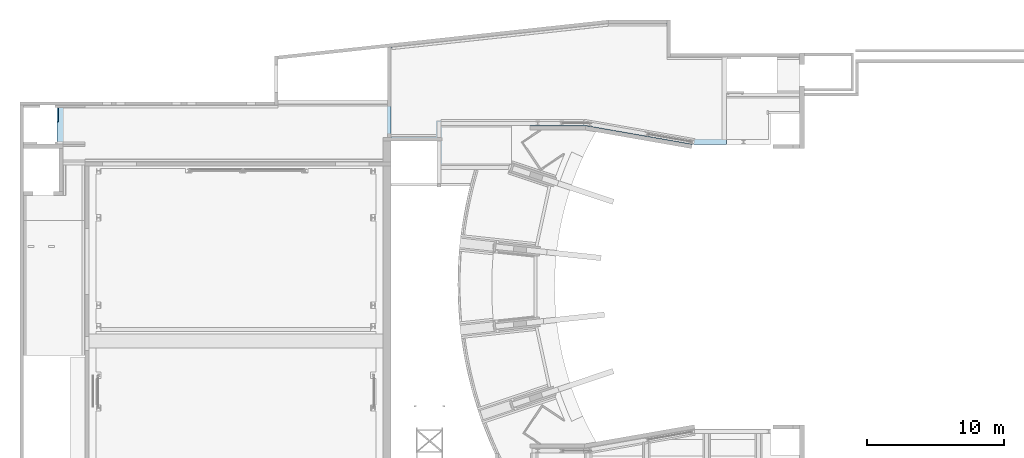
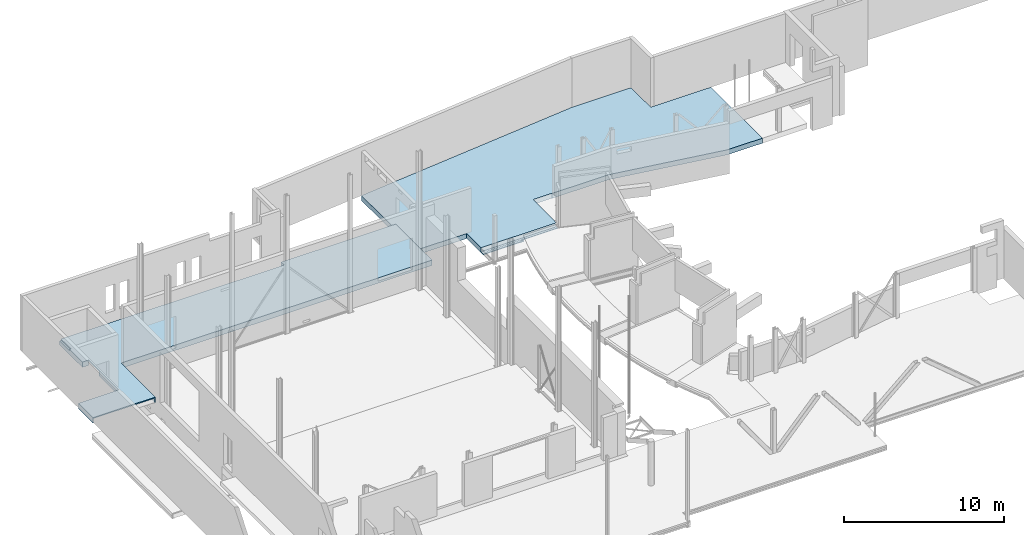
# One storey, part 34 of 37: 2 slabs.
"""IFC2X3 building model written with IfcOpenShell, lengths in millimetres."""

from ifc_helpers import new_model, entity, si_unit, converted_unit, derived_unit, direction, frame, origin, place, context, subcontext, project, spatial, faceted_brep, material, type_object, element, save


model = new_model("IFC2X3")

# Units and contexts
model_context = context("Model", 3, precision=0.01, world=origin(), true_north=direction((6.12303176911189e-17, 1.0)))
body_context = subcontext(model_context, "Body", "Model", "MODEL_VIEW")
ifc_project = project(units=[si_unit("LENGTHUNIT", "METRE", prefix="MILLI"), si_unit("AREAUNIT", "SQUARE_METRE", prefix="MILLI"), si_unit("VOLUMEUNIT", "CUBIC_METRE"), converted_unit("PLANEANGLEUNIT", "DEGREE", entity("IfcRatioMeasure", 0.0174532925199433), si_unit("PLANEANGLEUNIT", "RADIAN"), dimensions=[0, 0, 0, 0, 0, 0, 0]), si_unit("MASSUNIT", "GRAM", prefix="KILO"), derived_unit("MASSDENSITYUNIT", [(si_unit("MASSUNIT", "GRAM", prefix="KILO"), 1), (si_unit("LENGTHUNIT", "METRE"), -3)]), derived_unit("MOMENTOFINERTIAUNIT", [(si_unit("LENGTHUNIT", "METRE"), 4)]), si_unit("TIMEUNIT", "SECOND"), si_unit("FREQUENCYUNIT", "HERTZ"), si_unit("THERMODYNAMICTEMPERATUREUNIT", "DEGREE_CELSIUS"), derived_unit("THERMALTRANSMITTANCEUNIT", [(si_unit("MASSUNIT", "GRAM", prefix="KILO"), 1), (si_unit("THERMODYNAMICTEMPERATUREUNIT", "KELVIN"), -1), (si_unit("TIMEUNIT", "SECOND"), -3)]), derived_unit("VOLUMETRICFLOWRATEUNIT", [(si_unit("LENGTHUNIT", "METRE"), 3), (si_unit("TIMEUNIT", "SECOND"), -1)]), si_unit("ELECTRICCURRENTUNIT", "AMPERE"), si_unit("ELECTRICVOLTAGEUNIT", "VOLT"), si_unit("POWERUNIT", "WATT"), si_unit("FORCEUNIT", "NEWTON", prefix="KILO"), si_unit("ILLUMINANCEUNIT", "LUX"), si_unit("LUMINOUSFLUXUNIT", "LUMEN"), si_unit("LUMINOUSINTENSITYUNIT", "CANDELA"), derived_unit("USERDEFINED", [(si_unit("MASSUNIT", "GRAM", prefix="KILO"), -1), (si_unit("LENGTHUNIT", "METRE"), -2), (si_unit("TIMEUNIT", "SECOND"), 3), (si_unit("LUMINOUSFLUXUNIT", "LUMEN"), 1)]), derived_unit("LINEARVELOCITYUNIT", [(si_unit("LENGTHUNIT", "METRE"), 1), (si_unit("TIMEUNIT", "SECOND"), -1)]), si_unit("PRESSUREUNIT", "PASCAL"), derived_unit("USERDEFINED", [(si_unit("LENGTHUNIT", "METRE"), -2), (si_unit("MASSUNIT", "GRAM", prefix="KILO"), 1), (si_unit("TIMEUNIT", "SECOND"), -2)]), derived_unit("LINEARFORCEUNIT", [(si_unit("MASSUNIT", "GRAM", prefix="KILO"), 1), (si_unit("LENGTHUNIT", "METRE"), 1), (si_unit("TIMEUNIT", "SECOND"), -2), (si_unit("LENGTHUNIT", "METRE"), -1)]), derived_unit("PLANARFORCEUNIT", [(si_unit("MASSUNIT", "GRAM", prefix="KILO"), 1), (si_unit("LENGTHUNIT", "METRE"), 1), (si_unit("TIMEUNIT", "SECOND"), -2), (si_unit("LENGTHUNIT", "METRE"), -2)])], contexts=[model_context])

# Site, building, storey
site_placement = place(None, origin())
site = spatial("IfcSite", under=ifc_project, at=site_placement, Name="Theater aan de Parade", CompositionType="ELEMENT")
building_placement = place(site_placement, origin())
building = spatial("IfcBuilding", under=site, at=building_placement, Name="Theater aan de Parade", CompositionType="ELEMENT")
storey_placement = place(building_placement, frame((0.0, 0.0, 5020.0)))
storey = spatial("IfcBuildingStorey", under=building, at=storey_placement, Name="01 eerste verdieping", CompositionType="ELEMENT", Elevation=5020.0)

# Slabs
ifc_material = material(Name="00_PBT_MAT_beton t.p.g._C30/37")
slab_type_1 = type_object("IfcSlabType", Name="Floor:28_PBT_FL_druklaag_d=60 (=380)_C30/37", PredefinedType="FLOOR")
slab_1_placement = place(storey_placement, origin())
element("IfcSlab", 1, at=slab_1_placement, inside=storey, type_object=slab_type_1, material=ifc_material, Name="Floor:28_PBT_FL_druklaag_d=60 (=380)_C30/37", ObjectType="Floor:28_PBT_FL_druklaag_d=60 (=380)_C30/37", PredefinedType="FLOOR", context=body_context, shape_type="Brep", body=[
    faceted_brep([(46258.3063242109, 41486.1710981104, -140.0), (46258.3063242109, 44225.0, -140.0), (46258.3063242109, 44225.0, -80.0), (46258.3063242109, 41486.1710981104, -80.0), (46258.3063242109, 41160.0, -460.0), (46258.3063242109, 41330.0, -460.0), (46258.3063242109, 41330.0, -380.0), (46258.3063242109, 41160.0, -380.0), (46206.0520128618, 41330.0, -140.0), (41133.8581275, 41330.0, -140.0), (41133.8581275, 44225.0, -140.0), (40793.8581275, 44545.0, -140.0), (40793.8581275, 43450.0, -140.0), (37453.8581740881, 43450.0, -140.0), (37453.8581740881, 49933.0161565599, -140.0), (53374.3979784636, 51660.519112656, -140.0), (57637.0315633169, 51660.519112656, -140.0), (57637.0315633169, 49261.9979908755, -140.0), (57637.0315633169, 49221.564484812, -140.0), (61663.8822563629, 49221.564484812, -140.0), (61663.8822563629, 43205.0, -140.0), (59521.5848518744, 43205.0, -140.0), (59521.5848518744, 43200.9267024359, -140.0), (51574.0378713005, 44591.7474240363, -140.0), (51544.7332149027, 44424.2922446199, -140.0), (50740.6888984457, 44565.0, -140.0), (40793.8581275, 44565.0, -140.0), (57614.7658254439, 51710.5191126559, -460.0), (57637.0315633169, 51710.5191126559, -460.0), (57614.7658254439, 51684.969012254, -460.0), (57637.0315633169, 51660.519112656, -460.0), (53374.3979784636, 51660.519112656, -460.0), (53374.7658254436, 51684.969012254, -460.0), (53371.3947545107, 51684.7866536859, -460.0), (48658.4652116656, 51173.3969761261, -460.0), (43945.5356688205, 50662.0072985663, -460.0), (37524.412511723, 49965.265267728, -460.0), (37453.8581740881, 49933.0161565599, -460.0), (37453.8581300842, 49983.3096390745, -460.0), (37203.8581300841, 49956.1826858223, -460.0), (37203.8581300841, 49571.9210622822, -460.0), (37203.8581300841, 48471.9210622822, -460.0), (37203.8581300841, 45646.8945249, -460.0), (37453.8581740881, 43450.0, -460.0), (37203.8581300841, 43671.8945249, -460.0), (37203.8581300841, 43400.0, -460.0), (37453.858130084, 43425.5501004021, -460.0), (40793.8581275, 43425.5501004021, -460.0), (40793.8581275, 43450.0, -460.0), (41133.8581275, 44225.0, -460.0), (40793.8581275, 44545.0, -460.0), (40793.8581275, 44565.0, -460.0), (46258.3063242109, 44225.0, -460.0), (50740.6888984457, 44565.0, -460.0), (47610.9866342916, 44225.0, -460.0), (47610.9866342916, 44210.0, -460.0), (51696.0520432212, 44210.0, -460.0), (51544.7332149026, 44424.2922446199, -460.0), (51574.0378713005, 44591.7474240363, -460.0), (59521.5848518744, 43200.9267024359, -460.0), (59467.48061465, 42850.0, -460.0), (59521.5848518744, 43185.0, -460.0), (61663.8822563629, 43205.0, -460.0), (59521.5848518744, 43205.0, -460.0), (61983.8822563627, 43185.0, -460.0), (61983.8822563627, 46366.8631171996, -460.0), (61663.8822563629, 49221.564484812, -460.0), (61983.8822563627, 49261.9979908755, -460.0), (61663.8822563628, 49236.4478904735, -460.0), (57637.0315633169, 49236.4478904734, -460.0), (57637.0315633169, 49221.564484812, -460.0), (61663.8822563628, 49261.9979908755, -460.0), (59521.5848518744, 42885.0, -460.0), (61983.8822563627, 42850.0, -460.0), (61983.8822563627, 42885.0, -460.0), (40793.8581275, 43400.0, -460.0), (40813.8581275, 43100.0, -460.0), (41133.8581275, 41330.0, -460.0), (41113.8581275, 41310.0, -460.0), (46225.0, 41310.0, -460.0), (46225.0, 41160.0, -460.0), (40813.8581275, 41010.0, -460.0), (41113.8581275, 41010.0, -460.0), (37453.858130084, 43400.0, -460.0), (37203.8581300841, 43100.0, -460.0), (37521.6563044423, 49990.6662707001, -460.0), (53371.6932212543, 51710.519112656, -460.0), (53368.63854723, 51710.1876566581, -460.0), (53374.7658254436, 51710.519112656, -460.0), (57637.0315633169, 49261.9979908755, -80.0), (57637.0315633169, 51710.5191126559, -80.0), (53371.6932212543, 51710.519112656, -80.0), (37453.8581300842, 49983.3096390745, -80.0), (37203.8581300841, 49956.1826858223, -80.0), (37203.8581300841, 46100.0, -80.0), (37203.8581300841, 45780.0, -80.0), (37203.8581300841, 43350.0, -80.0), (37203.8581300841, 43100.0, -80.0), (37453.8581300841, 43100.0, -80.0), (40813.8581275, 43100.0, -80.0), (40813.8581275, 41310.0, -80.0), (46199.3600820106, 41310.0, -80.0), (47610.9866342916, 44225.0, -80.0), (47610.9866342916, 44210.0, -80.0), (51696.0520432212, 44210.0, -80.0), (59467.48061465, 42850.0, -80.0), (61983.8822563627, 42850.0, -80.0), (61983.8822563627, 46626.8631171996, -80.0), (61983.8822563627, 49261.9979908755, -80.0), (57887.0315633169, 49261.9979908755, -80.0), (37203.8581300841, 43100.0, -400.0), (53368.63854723, 51710.1876566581, -285.0), (37521.6563044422, 49990.6662707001, -285.0), (61663.8822563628, 49261.9979908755, -285.0), (57637.0315633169, 49261.9979908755, -285.0), (61983.8822563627, 43039.2499999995, -216.0), (61983.8822563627, 43039.2499999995, -424.0), (61983.8822563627, 43041.3218552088, -429.001900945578), (61983.8822563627, 43043.2040584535, -433.545941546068), (61983.8822563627, 43045.1810876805, -438.318912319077), (61983.8822563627, 43047.1581169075, -443.091883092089), (61983.8822563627, 43051.9310876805, -445.068912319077), (61983.8822563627, 43056.7040584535, -447.045941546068), (61983.8822563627, 43061.248099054, -448.928144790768), (61983.8822563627, 43066.2499999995, -451.0), (61983.8822563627, 43185.0, -451.0), (61983.8822563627, 42885.0, -451.0), (61983.8822563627, 43003.7499999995, -451.0), (61983.8822563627, 43008.751900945, -448.92814479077), (61983.8822563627, 43013.2959415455, -447.045941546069), (61983.8822563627, 43018.0689123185, -445.068912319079), (61983.8822563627, 43022.8418830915, -443.091883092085), (61983.8822563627, 43024.8189123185, -438.318912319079), (61983.8822563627, 43026.7959415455, -433.54594154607), (61983.8822563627, 43028.6781447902, -429.001900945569), (61983.8822563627, 43030.7499999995, -424.0), (61983.8822563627, 43030.7499999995, -216.0), (61983.8822563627, 43028.6781447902, -210.998099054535), (61983.8822563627, 43026.7959415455, -206.454058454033), (61983.8822563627, 43024.8189123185, -201.681087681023), (61983.8822563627, 43022.8418830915, -196.908116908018), (61983.8822563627, 43018.0689123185, -194.931087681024), (61983.8822563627, 43013.2959415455, -192.954058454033), (61983.8822563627, 43008.751900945, -191.07185520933), (61983.8822563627, 43003.7499999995, -189.0), (61983.8822563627, 42885.0, -189.0), (61983.8822563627, 42885.0, -175.0), (61983.8822563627, 43185.0, -175.0), (61983.8822563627, 43185.0, -189.0), (61983.8822563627, 43066.2499999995, -189.0), (61983.8822563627, 43061.2480990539, -191.071855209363), (61983.8822563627, 43056.7040584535, -192.954058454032), (61983.8822563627, 43051.9310876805, -194.931087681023), (61983.8822563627, 43047.1581169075, -196.90811690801), (61983.8822563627, 43045.1810876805, -201.681087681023), (61983.8822563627, 43043.2040584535, -206.454058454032), (61983.8822563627, 43041.3218552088, -210.998099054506), (57614.7658254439, 51710.5191126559, -285.0), (53374.7658254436, 51710.519112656, -285.0), (40813.8581275, 41310.0, -380.0), (40813.8581275, 41010.0, -380.0), (46225.0, 41160.0, -380.0), (43781.188250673, 41154.4999944, -419.0), (43772.9637130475, 41127.4999944, -446.0), (43774.5562211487, 41132.7300084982, -443.517253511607), (43776.14872925, 41137.9600225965, -441.034507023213), (43777.7412373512, 41143.1900366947, -438.551760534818), (43779.3337454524, 41148.4200507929, -436.069014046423), (43780.1587978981, 41151.1249622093, -428.475165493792), (43780.6735242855, 41152.8124783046, -423.737582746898), (43781.188250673, 41154.4999944, -380.0), (43759.2521572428, 41082.2781185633, -380.0), (43755.1714070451, 41068.768552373, -446.0), (43737.50208252, 41010.0, -380.0), (43737.5020825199, 41010.0, -446.0), (43638.3466670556, 41010.0, -380.0), (43638.3466670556, 41010.0, -230.0), (43575.736911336, 41010.0, -230.0), (43572.1891613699, 41010.0, -231.6150727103), (43569.6714422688, 41010.0, -232.761235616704), (43566.6387077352, 41010.0, -234.141853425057), (43563.6059732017, 41010.0, -235.522471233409), (43561.8461073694, 41010.0, -240.261235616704), (43560.7549700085, 41010.0, -243.199324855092), (43560.0862415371, 41010.0, -245.0), (43560.0862415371, 41010.0, -365.0), (43561.808661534, 41010.0, -368.383699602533), (43563.0952304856, 41010.0, -370.911168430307), (43564.5997249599, 41010.0, -373.866752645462), (43575.7369483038, 41010.0, -380.0), (41113.8581275, 41010.0, -446.0), (59521.5848518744, 43185.0, -451.0), (59521.5848518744, 43066.2499999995, -451.0), (59521.5848518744, 43061.4770292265, -449.022970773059), (59521.5848518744, 43056.7040584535, -447.045941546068), (59521.5848518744, 43051.9310876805, -445.068912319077), (59521.5848518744, 43047.1581169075, -443.091883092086), (59521.5848518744, 43045.2759136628, -438.547842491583), (59521.5848518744, 43043.3937104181, -434.003801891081), (59521.5848518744, 43041.3218552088, -429.001900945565), (59521.5848518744, 43039.2499999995, -424.0), (59521.5848518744, 43039.2499999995, -216.0), (59521.5848518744, 43041.2270292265, -211.22702922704), (59521.5848518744, 43043.2040584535, -206.454058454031), (59521.5848518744, 43045.1810876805, -201.681087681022), (59521.5848518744, 43047.1581169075, -196.908116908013), (59521.5848518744, 43051.702157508, -195.025913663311), (59521.5848518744, 43056.2461981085, -193.143710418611), (59521.5848518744, 43061.248099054, -191.07185520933), (59521.5848518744, 43066.2499999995, -189.0), (59521.5848518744, 43185.0, -189.0), (59521.5848518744, 43185.0, -175.0), (59521.5848518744, 42885.0, -175.0), (59521.5848518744, 42885.0, -189.0), (59521.5848518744, 43003.7499999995, -189.0), (59521.5848518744, 43008.5229707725, -190.977029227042), (59521.5848518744, 43013.2959415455, -192.954058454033), (59521.5848518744, 43018.0689123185, -194.931087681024), (59521.5848518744, 43022.8418830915, -196.908116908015), (59521.5848518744, 43024.7240863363, -201.452157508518), (59521.5848518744, 43026.6062895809, -205.996198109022), (59521.5848518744, 43028.6781447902, -210.998099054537), (59521.5848518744, 43030.7499999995, -216.0), (59521.5848518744, 43030.7499999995, -424.0), (59521.5848518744, 43028.7729707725, -428.77297077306), (59521.5848518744, 43026.7959415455, -433.545941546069), (59521.5848518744, 43024.8189123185, -438.318912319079), (59521.5848518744, 43022.8418830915, -443.091883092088), (59521.5848518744, 43018.297842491, -444.97408633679), (59521.5848518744, 43013.7538018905, -446.856289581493), (59521.5848518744, 43008.751900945, -448.928144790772), (59521.5848518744, 43003.7499999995, -451.0), (59521.5848518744, 42885.0, -451.0), (43578.2937646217, 41018.5808795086, -380.0), (43580.8528536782, 41027.1598726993, -380.0), (41113.8581275, 41154.4999944, -380.0), (41113.8581275, 41165.4999944, -380.0), (46225.0, 41165.4999944, -380.0), (46206.0520128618, 41330.0, -380.0), (46199.3600820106, 41310.0, -380.0), (43566.4794003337, 41031.4498422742, -365.0), (43566.4794003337, 41031.4498422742, -245.0), (43568.0464762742, 41030.9821252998, -241.603238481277), (43569.1841792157, 41030.642561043, -239.137177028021), (43570.5365686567, 41030.2389204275, -236.205765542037), (43571.8889580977, 41029.8352798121, -233.274354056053), (43576.370905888, 41028.4975762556, -231.637177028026), (43580.8528536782, 41027.1598726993, -230.0), (43577.5979741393, 41028.1313396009, -378.364614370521), (43575.2349195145, 41028.8366281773, -377.177318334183), (43572.4259524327, 41029.6750059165, -375.765977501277), (43569.6169853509, 41030.5133836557, -374.354636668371), (43568.0481928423, 41030.9816129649, -369.677318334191), (43567.0850369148, 41031.2690810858, -366.805691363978), (43564.435660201, 41021.3380358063, -239.795622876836), (43564.0858525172, 41022.6157453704, -242.374601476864), (43578.2935753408, 41018.5803090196, -230.0), (43567.6557910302, 41020.1290444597, -234.423778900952), (43565.606161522, 41020.2719929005, -236.926532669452), (43570.2537176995, 41019.7667223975, -232.33909418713), (43563.2807856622, 41020.7255249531, -245.0), (43563.2807856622, 41020.7255249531, -365.0), (46199.3600820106, 41310.0, -184.0), (46199.3600820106, 41310.0, -165.0), (46225.0, 41310.0, -446.0), (41113.8581275, 41310.0, -446.0), (41113.8581275, 41165.4999944, -419.0), (46225.0, 41165.4999944, -419.0), (41113.8581275, 41154.4999944, -419.0), (41113.8581275, 41192.4999944, -446.0), (41113.8581275, 41187.727023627, -444.02297077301), (41113.8581275, 41182.954052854, -442.045941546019), (41113.8581275, 41178.1810820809, -440.068912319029), (41113.8581275, 41173.4081113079, -438.091883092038), (41113.8581275, 41171.4502892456, -433.365282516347), (41113.8581275, 41169.4924671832, -428.638681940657), (41113.8581275, 41167.4962307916, -423.819340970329), (41113.8581275, 41152.522965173, -423.772970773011), (41113.8581275, 41150.545935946, -428.54594154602), (41113.8581275, 41148.568906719, -433.31891231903), (41113.8581275, 41146.591877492, -438.091883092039), (41113.8581275, 41141.6633500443, -440.133346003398), (41113.8581275, 41136.7348225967, -442.174808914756), (41113.8581275, 41132.1174084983, -444.08740445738), (41113.8581275, 41127.4999944, -446.0), (46225.0, 41192.4999944, -446.0), (46225.0, 41167.4962307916, -423.819340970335), (46225.0, 41169.454052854, -428.545941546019), (46225.0, 41171.431082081, -433.318912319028), (46225.0, 41173.408111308, -438.091883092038), (46225.0, 41178.181082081, -440.068912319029), (46225.0, 41182.954052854, -442.045941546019), (46225.0, 41187.6806534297, -444.003763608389), (43565.7607443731, 41020.5356255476, -373.186400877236), (43564.0514455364, 41020.1075935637, -370.158902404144), (43567.7131487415, 41020.2096466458, -375.608250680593), (43570.9209068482, 41010.0011410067, -378.411168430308), (43563.0152828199, 41019.03187088, -367.612601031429), (43570.3039435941, 41019.7090763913, -377.701717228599), (43566.1042194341, 41010.0, -376.822336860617), (37453.858130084, 43400.0, -285.0), (40793.8581275, 43400.0, -285.0), (37453.858130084, 43423.0301338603, -456.358117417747), (37453.858130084, 43421.4461246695, -454.068890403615), (37453.858130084, 43420.7230623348, -450.534445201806), (37453.858130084, 43420.0, -447.0), (37453.858130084, 43420.0, -294.0), (37453.858130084, 43417.3639610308, -287.636038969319), (37453.858130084, 43411.0, -285.0), (40793.8581275, 43411.0, -285.0), (40793.8581275, 43417.3639610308, -287.636038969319), (40793.8581275, 43420.0, -294.0), (40793.8581275, 43420.0, -447.0), (40793.8581275, 43420.7230623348, -450.534445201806), (40793.8581275, 43421.4461246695, -454.068890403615), (40793.8581275, 43423.4981125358, -457.034445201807), (53369.8251680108, 51699.25184708, -285.0), (37522.8429252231, 49979.7304611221, -285.0), (57614.7658254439, 51699.519112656, -285.0), (53374.7658254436, 51699.519112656, -285.0), (61663.8822563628, 49250.9979908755, -285.0), (57637.0315633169, 49250.9979908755, -285.0), (53371.1057459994, 51687.4501348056, -456.128114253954), (53370.9520397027, 51688.8666806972, -454.068890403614), (53370.8740396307, 51689.5855236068, -450.534445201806), (53370.7960395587, 51690.3043665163, -447.0), (53370.7960395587, 51690.3043665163, -294.0), (53370.5116778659, 51692.9250228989, -287.636038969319), (37523.5294350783, 49973.403636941, -287.636038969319), (37523.813796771, 49970.7829805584, -294.0), (37523.813796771, 49970.7829805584, -447.0), (37523.9155956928, 49969.8448092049, -451.612851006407), (37523.969796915, 49969.3452947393, -454.068890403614), (37524.191154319, 49967.3052812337, -457.034445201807), (46949.3546233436, 50993.5278020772, -447.0), (42236.8953867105, 50482.1891564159, -447.0), (49308.2424635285, 51249.0120272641, -451.089764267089), (41553.1332438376, 50405.1854776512, -456.631709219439), (46301.9362062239, 50919.6578688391, -457.798469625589), (44593.1033857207, 50737.4688789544, -450.702915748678), (46301.727486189, 50921.5814187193, -454.558801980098), (42881.3460842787, 50550.8200363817, -453.690198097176), (57614.7658254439, 51686.9540802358, -457.131158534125), (57614.7658254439, 51689.0729879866, -454.068890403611), (57614.7658254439, 51689.7960503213, -450.534445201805), (57614.7658254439, 51690.519112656, -447.0), (57614.7658254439, 51690.519112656, -294.0), (57614.7658254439, 51693.1551516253, -287.636038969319), (53374.7658254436, 51693.1551516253, -287.636038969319), (53374.7658254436, 51690.519112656, -294.0), (53374.7658254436, 51690.519112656, -447.0), (53374.7658254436, 51689.7960503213, -450.534445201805), (53374.7658254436, 51689.0729879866, -454.068890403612), (53374.7658254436, 51687.0210001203, -457.034445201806), (57637.0315633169, 49244.6340298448, -287.636038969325), (57637.0315633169, 49241.9979908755, -294.0), (57637.0315633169, 49241.9979908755, -447.0), (57637.031563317, 49241.2752050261, -450.53379766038), (57637.0315633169, 49240.5524191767, -454.067595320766), (57637.0315633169, 49238.5001548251, -457.033797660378), (61663.8822563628, 49238.5380320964, -456.979304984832), (61663.8822563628, 49240.5518662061, -454.068890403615), (61663.8822563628, 49241.2749285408, -450.534445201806), (61663.8822563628, 49241.9979908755, -447.0), (61663.8822563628, 49241.9979908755, -294.0), (61663.8822563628, 49244.6340298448, -287.636038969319)], [[[0, 1, 2, 3]], [[4, 5, 6, 7]], [[0, 8, 9, 10, 1]], [[11, 12, 13, 14, 15, 16, 17, 18, 19, 20, 21, 22, 23, 24, 25, 26]], [[27, 28, 29]], [[29, 28, 30]], [[30, 31, 29]], [[31, 32, 29]], [[33, 32, 31]], [[31, 34, 33]], [[31, 35, 34]], [[31, 36, 35]], [[37, 36, 31]], [[38, 36, 37]], [[39, 38, 37]], [[37, 40, 39]], [[41, 40, 37]], [[41, 37, 42]], [[37, 43, 42]], [[44, 42, 43]], [[45, 44, 43]], [[45, 43, 46]], [[46, 43, 47]], [[48, 47, 43]], [[48, 49, 47]], [[50, 49, 48]], [[49, 50, 51]], [[52, 49, 51]], [[51, 53, 52]], [[54, 52, 53]], [[53, 55, 54]], [[56, 55, 53]], [[56, 53, 57]], [[58, 56, 57]], [[59, 56, 58]], [[59, 60, 56]], [[61, 60, 59]], [[62, 61, 59]], [[62, 59, 63]], [[62, 64, 61]], [[65, 64, 62]], [[66, 65, 62]], [[66, 67, 65]], [[67, 66, 68]], [[68, 66, 69]], [[66, 70, 69]], [[71, 67, 68]], [[60, 61, 72]], [[72, 73, 60]], [[74, 73, 72]], [[75, 47, 49]], [[49, 76, 75]], [[49, 77, 76]], [[77, 78, 76]], [[77, 79, 78]], [[79, 77, 5]], [[4, 79, 5]], [[79, 4, 80]], [[76, 78, 81]], [[78, 82, 81]], [[75, 76, 83]], [[83, 76, 84]], [[83, 84, 45]], [[45, 46, 83]], [[85, 36, 38]], [[33, 86, 32]], [[33, 87, 86]], [[86, 88, 32]], [[89, 90, 91, 92, 93, 94, 95, 96, 97, 98, 99, 100, 101, 3, 2, 102, 103, 104, 105, 106, 107, 108, 109]], [[45, 84, 110, 97, 96, 95, 94, 93, 39, 40, 41, 42, 44]], [[85, 38, 39, 93, 92, 91, 86, 87, 111, 112]], [[28, 90, 89, 17, 16, 30]], [[113, 114, 17, 89, 109, 108, 67, 71]], [[115, 116, 117, 118, 119, 120, 121, 122, 123, 124, 125, 64, 65, 67, 108, 107, 106, 73, 74, 126, 127, 128, 129, 130, 131, 132, 133, 134, 135, 136, 137, 138, 139, 140, 141, 142, 143, 144, 145, 146, 147, 148, 149, 150, 151, 152, 153, 154, 155, 156]], [[60, 73, 106, 105]], [[56, 60, 105, 104]], [[52, 54, 102, 2, 1, 10, 49]], [[55, 56, 104, 103]], [[54, 55, 103, 102]], [[88, 86, 91, 90, 28, 27, 157, 158]], [[159, 100, 99, 76, 81, 160]], [[110, 84, 76, 99, 98, 97]], [[80, 4, 7, 161]], [[162, 163, 164, 165, 166, 167, 168, 169]], [[162, 170, 171]], [[172, 163, 162]], [[173, 174, 172]], [[172, 171, 173]], [[162, 171, 172]], [[174, 173, 175, 176, 177, 178, 179, 180, 181, 182, 183, 184, 185, 186, 187, 188, 189, 160, 81, 82, 190]], [[61, 191, 192, 193, 194, 195, 196, 197, 198, 199, 200, 201, 202, 203, 204, 205, 206, 207, 208, 209, 210, 211, 212, 213, 214, 215, 216, 217, 218, 219, 220, 221, 222, 223, 224, 225, 226, 227, 228, 229, 230, 231, 232, 72]], [[148, 147, 211, 210]], [[64, 125, 191, 61]], [[149, 148, 210, 209]], [[145, 144, 214, 213]], [[207, 206, 205, 153, 152, 151, 150, 149, 209, 208]], [[153, 205, 204, 203, 202, 201, 115, 156, 155, 154]], [[116, 115, 201, 200]], [[198, 197, 196, 120, 119, 118, 117, 116, 200, 199]], [[120, 196, 195, 194, 193, 192, 124, 123, 122, 121]], [[229, 228, 227, 131, 130, 129, 128, 127, 231, 230]], [[131, 227, 226, 225, 224, 223, 135, 134, 133, 132]], [[136, 135, 223, 222]], [[220, 219, 218, 140, 139, 138, 137, 136, 222, 221]], [[140, 218, 217, 216, 215, 214, 144, 143, 142, 141]], [[146, 145, 213, 212]], [[74, 72, 232, 126]], [[146, 212, 211, 147]], [[189, 233, 234, 175, 173, 171, 170, 235, 236, 237, 161, 7, 6, 238, 239, 159, 160]], [[240, 241, 242, 243, 244, 245, 246, 247, 176, 175, 234, 248, 249, 250, 251, 252, 253]], [[242, 254, 243]], [[182, 255, 183]], [[178, 177, 256]], [[181, 257, 258]], [[244, 243, 258]], [[179, 178, 246]], [[255, 242, 241]], [[179, 246, 259]], [[255, 254, 242]], [[246, 178, 256]], [[255, 260, 183]], [[254, 182, 258]], [[244, 258, 257]], [[247, 246, 256]], [[184, 183, 260]], [[180, 179, 259]], [[181, 180, 257]], [[245, 257, 259]], [[244, 257, 245]], [[181, 258, 182]], [[243, 254, 258]], [[180, 259, 257]], [[245, 259, 246]], [[182, 254, 255]], [[260, 255, 241]], [[176, 247, 256, 177]], [[261, 185, 184, 260]], [[260, 241, 240, 261]], [[262, 263, 101, 100, 159, 239]], [[264, 265, 78, 79]], [[8, 0, 3, 101, 263, 262, 239, 238]], [[237, 236, 266, 267]], [[162, 268, 235, 170]], [[78, 265, 269, 270, 271, 272, 273, 274, 275, 276, 266, 236, 235, 268, 277, 278, 279, 280, 281, 282, 283, 284, 190, 82]], [[285, 264, 79, 80, 161, 237, 267, 286, 287, 288, 289, 290, 291, 292]], [[293, 294, 252]], [[293, 295, 188]], [[249, 248, 296]], [[188, 187, 293]], [[248, 233, 296]], [[252, 297, 253]], [[240, 253, 261]], [[297, 261, 253]], [[186, 294, 187]], [[248, 234, 233]], [[189, 296, 233]], [[249, 296, 298]], [[297, 186, 185]], [[297, 294, 186]], [[251, 250, 295]], [[250, 249, 298]], [[299, 295, 298]], [[251, 295, 293]], [[188, 295, 299]], [[251, 293, 252]], [[294, 293, 187]], [[250, 298, 295]], [[299, 298, 296]], [[252, 294, 297]], [[261, 297, 185]], [[125, 124, 192, 191]], [[127, 126, 232, 231]], [[275, 274, 273, 289, 288, 287, 286, 267, 266, 276]], [[289, 273, 272, 271, 270, 269, 285, 292, 291, 290]], [[285, 269, 265, 264]], [[174, 190, 284, 163, 172]], [[166, 165, 281]], [[268, 169, 277]], [[283, 163, 284]], [[282, 164, 283]], [[278, 277, 168, 279]], [[169, 268, 162]], [[168, 277, 169]], [[163, 283, 164]], [[168, 167, 279]], [[280, 167, 166]], [[165, 282, 281]], [[280, 166, 281]], [[164, 282, 165]], [[167, 280, 279]], [[83, 300, 301, 75]], [[83, 46, 302, 303, 304, 305, 306, 307, 308, 300]], [[13, 43, 37, 14]], [[75, 301, 309, 310, 311, 312, 313, 314, 315, 47]], [[11, 26, 51, 50, 48, 12]], [[306, 305, 312, 311]], [[303, 302, 46, 47, 315, 314]], [[304, 303, 314, 313, 312, 305]], [[300, 308, 309, 301]], [[111, 316, 317, 112]], [[157, 318, 319, 158]], [[113, 320, 321, 114]], [[306, 311, 310, 307]], [[310, 309, 308, 307]], [[87, 33, 322, 323, 324, 325, 326, 327, 316, 111]], [[85, 112, 317, 328, 329, 330, 331, 332, 333, 36]], [[326, 325, 334, 335, 330, 329]], [[334, 325, 336]], [[322, 33, 34]], [[35, 337, 338]], [[35, 338, 34]], [[35, 36, 337]], [[336, 339, 334]], [[322, 340, 323]], [[335, 334, 339]], [[341, 340, 337]], [[322, 338, 340]], [[339, 331, 335]], [[331, 330, 335]], [[340, 339, 336]], [[336, 323, 340]], [[324, 323, 336, 325]], [[341, 332, 331]], [[34, 338, 322]], [[340, 341, 339]], [[338, 337, 340]], [[333, 332, 337, 36]], [[339, 341, 331]], [[341, 337, 332]], [[326, 329, 328, 327]], [[328, 317, 316, 327]], [[27, 29, 342, 343, 344, 345, 346, 347, 318, 157]], [[88, 158, 319, 348, 349, 350, 351, 352, 353, 32]], [[346, 345, 350, 349]], [[352, 343, 342, 29, 32, 353]], [[344, 343, 352, 351, 350, 345]], [[346, 349, 348, 347]], [[348, 319, 318, 347]], [[12, 48, 43, 13]], [[70, 18, 17, 114, 321, 354, 355, 356, 357, 358, 359, 69]], [[18, 70, 66, 19]], [[24, 57, 53, 25]], [[25, 53, 51, 26]], [[23, 58, 57, 24]], [[58, 23, 22, 59]], [[62, 20, 19, 66]], [[71, 68, 360, 361, 362, 363, 364, 365, 320, 113]], [[21, 63, 59, 22]], [[63, 21, 20, 62]], [[15, 14, 37, 31]], [[15, 31, 30, 16]], [[5, 77, 9, 8, 238, 6]], [[9, 77, 49, 10]], [[364, 363, 356, 355]], [[361, 360, 358]], [[359, 68, 69]], [[359, 360, 68]], [[362, 358, 357]], [[357, 356, 363]], [[362, 357, 363]], [[362, 361, 358]], [[359, 358, 360]], [[364, 355, 354, 365]], [[354, 321, 320, 365]], [[188, 299, 296]], [[188, 296, 189]]]),
])
slab_type_2 = type_object("IfcSlabType", Name="Floor:28_PBT_FL_druklaag_d=80 (=400)_C30/37", PredefinedType="FLOOR")
slab_2_placement = place(storey_placement, origin())
element("IfcSlab", 2, at=slab_2_placement, inside=storey, type_object=slab_type_2, material=ifc_material, Name="Floor:28_PBT_FL_druklaag_d=80 (=400)_C30/37", ObjectType="Floor:28_PBT_FL_druklaag_d=80 (=400)_C30/37", PredefinedType="FLOOR", context=body_context, shape_type="Brep", body=[
    faceted_brep([(37453.8581300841, 41573.308327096, -400.0), (36853.8581300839, 41573.308327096, -400.0), (15053.8570025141, 41573.308327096, -400.0), (15053.8570025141, 37303.3144998, -400.0), (15003.8570025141, 37303.3144998, -400.0), (15003.8570025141, 41333.3083270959, -400.0), (13504.8570025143, 41333.3083270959, -400.0), (13504.8570025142, 39120.0, -400.0), (13454.8570025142, 39120.0, -400.0), (13454.8570025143, 41593.3083270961, -400.0), (15053.8570025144, 41593.3083270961, -400.0), (15053.8570025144, 41623.308327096, -400.0), (36853.8581300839, 41623.308327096, -400.0), (36853.8581300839, 43100.0, -400.0), (36853.8581300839, 43350.0, -400.0), (37203.8581300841, 43350.0, -400.0), (37203.8581300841, 43100.0, -400.0), (37453.8581300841, 43100.0, -400.0), (15053.8570025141, 41573.308327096, 0.0), (16356.8568351, 41573.308327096, 0.0), (18826.8568351, 41573.308327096, 0.0), (33380.8581301, 41573.308327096, 0.0), (35850.8581301, 41573.308327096, 0.0), (36853.8581300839, 41573.308327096, 0.0), (37453.8581300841, 41573.308327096, 0.0), (37453.8581300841, 43100.0, 0.0), (37453.8581300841, 43350.0, 0.0), (37453.8581300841, 43671.8945249, 0.0), (37453.8581300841, 45646.8945249, 0.0), (37453.8581300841, 46100.0, 0.0), (37203.8581300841, 46100.0, 0.0), (29188.8975663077, 46100.0, 0.0), (29188.8975663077, 45723.0, 0.0), (28938.897566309, 45723.0, 0.0), (13109.3291773, 45723.0, 0.0), (13109.3291773, 44483.0, 0.0), (13009.3291773, 44483.0, 0.0), (13009.3291773, 42870.0, 0.0), (13454.8570025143, 42870.0, 0.0), (13454.8570025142, 39420.0, 0.0), (13454.8570025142, 39120.0, 0.0), (10554.1125537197, 39120.0, 0.0), (10554.1125537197, 37303.3144998, 0.0), (15053.8570025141, 37303.3144998, 0.0), (10554.1125537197, 37303.3144998, -400.0), (10604.1125537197, 37303.3144998, -400.0), (10604.1125537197, 37303.3144998, -80.0), (15003.8570025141, 37303.3144998, -80.0), (10554.1125537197, 39120.0, -400.0), (13454.8570025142, 39120.0, -80.0), (10604.1125537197, 39120.0, -80.0), (10604.1125537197, 39120.0, -400.0), (13454.8570025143, 42870.0, -80.0), (13454.8570025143, 41593.3083270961, -80.0), (13009.3291773, 42870.0, -400.0), (13454.8570025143, 42870.0, -400.0), (13009.3291773, 45723.0, -400.0), (13009.3291773, 44483.0, -110.0), (13009.3291773, 45723.0, -110.0), (29188.8975663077, 45723.0, -400.0), (13109.3291773, 45723.0, -110.0), (29188.8975663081, 45723.0, -80.0), (29188.8975663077, 46100.0, -400.0), (29188.8975663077, 45780.0, -400.0), (29188.8975663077, 45780.0, -80.0), (37453.8581300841, 46100.0, -80.0), (37203.8581300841, 46100.0, -80.0), (37203.8581300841, 46100.0, -400.0), (37453.8581300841, 43100.0, -80.0), (37203.8581300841, 43100.0, -80.0), (37203.858130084, 43350.0, -80.0), (36853.8581300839, 43350.0, -80.0), (36853.8581300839, 41623.308327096, -80.0), (15053.8570025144, 41623.308327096, -80.0), (15053.8570025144, 41593.3083270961, -80.0), (13454.8570025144, 45673.0, -80.0), (29188.8975663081, 45673.0, -80.0), (37203.8581300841, 45780.0, -80.0), (13454.8570025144, 45673.0, -400.0), (29188.8975663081, 45673.0, -400.0), (37203.8581300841, 45780.0, -400.0), (15003.8570025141, 41333.3083270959, -80.0), (13504.8570025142, 39120.0, -80.0), (13504.8570025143, 41333.3083270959, -80.0), (13109.3291773, 44483.0, -110.0)], [[[0, 1, 2, 3, 4, 5, 6, 7, 8, 9, 10, 11, 12, 13, 14, 15, 16, 17]], [[18, 19, 20, 21, 22, 23, 24, 25, 26, 27, 28, 29, 30, 31, 32, 33, 34, 35, 36, 37, 38, 39, 40, 41, 42, 43]], [[2, 1, 0, 24, 23, 22, 21, 20, 19, 18]], [[3, 2, 18, 43]], [[43, 42, 44, 45, 46, 47, 4, 3]], [[48, 44, 42, 41]], [[41, 40, 49, 50, 51, 48]], [[40, 39, 38, 52, 53, 9, 8, 49]], [[54, 55, 52, 38, 37]], [[56, 54, 37, 36, 57, 58]], [[59, 56, 58, 60, 34, 33, 32, 61]], [[32, 31, 62, 63, 64, 61]], [[31, 30, 29, 65, 66, 67, 62]], [[29, 28, 27, 26, 25, 24, 0, 17, 68, 65]], [[68, 69, 70, 71, 72, 73, 74, 53, 52, 75, 76, 61, 64, 77, 66, 65]], [[69, 16, 15, 70]], [[69, 68, 17, 16]], [[73, 72, 12, 11]], [[55, 78, 75, 52]], [[76, 75, 78, 79]], [[76, 79, 59, 61]], [[71, 70, 15, 14]], [[72, 71, 14, 13, 12]], [[53, 74, 10, 9]], [[74, 73, 11, 10]], [[77, 64, 63, 80]], [[81, 47, 46, 50, 49, 82, 83]], [[47, 81, 5, 4]], [[50, 46, 45, 51]], [[7, 82, 49, 8]], [[83, 82, 7, 6]], [[81, 83, 6, 5]], [[57, 84, 60, 58]], [[84, 57, 36, 35]], [[60, 84, 35, 34]], [[67, 66, 77, 80]], [[62, 67, 80, 63]], [[55, 54, 56, 59, 79, 78]], [[44, 48, 51, 45]]]),
])

save(model, "model.ifc")
